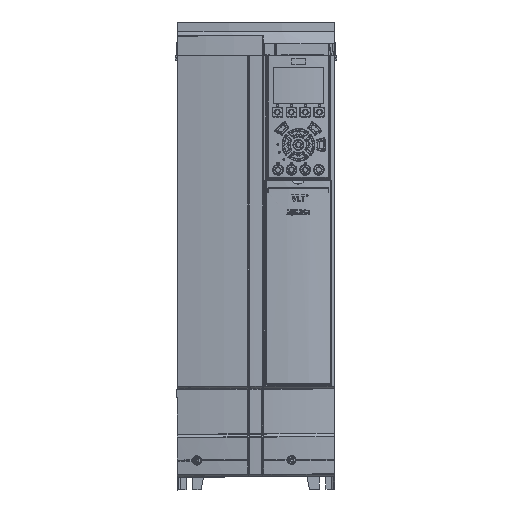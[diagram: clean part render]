
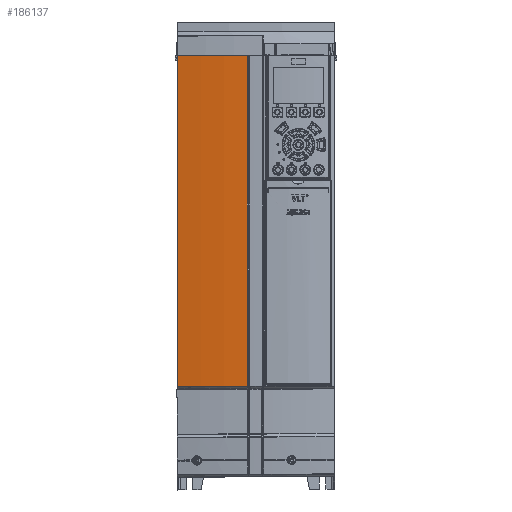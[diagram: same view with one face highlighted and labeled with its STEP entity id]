
A CAD part, top view. The second image highlights one B-rep face of the part: STEP entity #186137.
In plain terms, the highlighted cylindrical face has radius 574.02 mm (diameter 1148.04 mm), a partial arc.
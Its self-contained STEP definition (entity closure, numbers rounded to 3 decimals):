
#48427=DIRECTION('',(0.,-1.,0.));
#48428=VECTOR('',#48427,346.896);
#48429=CARTESIAN_POINT('',(-82.111,174.5,232.048));
#48430=LINE('',#48429,#48428);
#48434=CARTESIAN_POINT('',(44.923,174.5,-327.738));
#48435=DIRECTION('',(0.,1.,0.));
#48436=DIRECTION('',(-0.221,0.,0.975));
#48437=AXIS2_PLACEMENT_3D('',#48434,#48435,#48436);
#48442=DIRECTION('',(0.,1.,0.));
#48443=VECTOR('',#48442,346.896);
#48444=CARTESIAN_POINT('',(-8.928,-172.396,
243.75));
#48445=LINE('',#48444,#48443);
#48449=CARTESIAN_POINT('',(44.923,-172.396,
-327.738));
#48450=DIRECTION('',(0.,1.,0.));
#48451=DIRECTION('',(-0.221,0.,0.975));
#48452=AXIS2_PLACEMENT_3D('',#48449,#48450,#48451);
#48457=CARTESIAN_POINT('',(-82.111,-172.396,
232.048));
#48458=CARTESIAN_POINT('',(-82.108,-172.396,
232.049));
#48459=CARTESIAN_POINT('',(-82.103,-172.396,
232.05));
#48460=CARTESIAN_POINT('',(-82.097,-172.396,
232.052));
#48461=CARTESIAN_POINT('',(-82.094,-172.396,
232.052));
#48466=CARTESIAN_POINT('',(-82.111,174.5,232.048));
#48493=CARTESIAN_POINT('',(-82.111,-172.396,
232.048));
#115746=VERTEX_POINT('',#48493);
#115748=VERTEX_POINT('',#48461);
#115806=CARTESIAN_POINT('',(-8.928,-172.396,
243.75));
#115807=CARTESIAN_POINT('',(-8.928,174.5,
243.75));
#115808=VERTEX_POINT('',#115806);
#115809=VERTEX_POINT('',#115807);
#116740=VERTEX_POINT('',#48466);
#186122=CARTESIAN_POINT('',(44.923,-175.,-327.738));
#186123=DIRECTION('',(0.,1.,0.));
#186124=DIRECTION('',(0.,0.,1.));
#186125=AXIS2_PLACEMENT_3D('',#186122,#186123,#186124);
#186126=CYLINDRICAL_SURFACE('',#186125,574.02);
#186128=ORIENTED_EDGE('',*,*,#186127,.F.);
#186129=ORIENTED_EDGE('',*,*,#183085,.T.);
#186130=ORIENTED_EDGE('',*,*,#186106,.F.);
#186132=ORIENTED_EDGE('',*,*,#186131,.F.);
#186134=ORIENTED_EDGE('',*,*,#186133,.F.);
#186135=EDGE_LOOP('',(#186128,#186129,#186130,#186132,#186134));
#186136=FACE_OUTER_BOUND('',#186135,.F.);
#186137=ADVANCED_FACE('',(#186136),#186126,.T.);
#48438=CIRCLE('',#48437,574.02);
#48453=CIRCLE('',#48452,574.02);
#48462=B_SPLINE_CURVE_WITH_KNOTS('',3,(#48457,#48458,#48459,#48460,#48461),
.UNSPECIFIED.,.F.,.F.,(4,1,4),(0.,0.5,1.),.UNSPECIFIED.);
#183085=EDGE_CURVE('',#116740,#115809,#48438,.T.);
#186106=EDGE_CURVE('',#115808,#115809,#48445,.T.);
#186127=EDGE_CURVE('',#116740,#115746,#48430,.T.);
#186131=EDGE_CURVE('',#115748,#115808,#48453,.T.);
#186133=EDGE_CURVE('',#115746,#115748,#48462,.T.);
